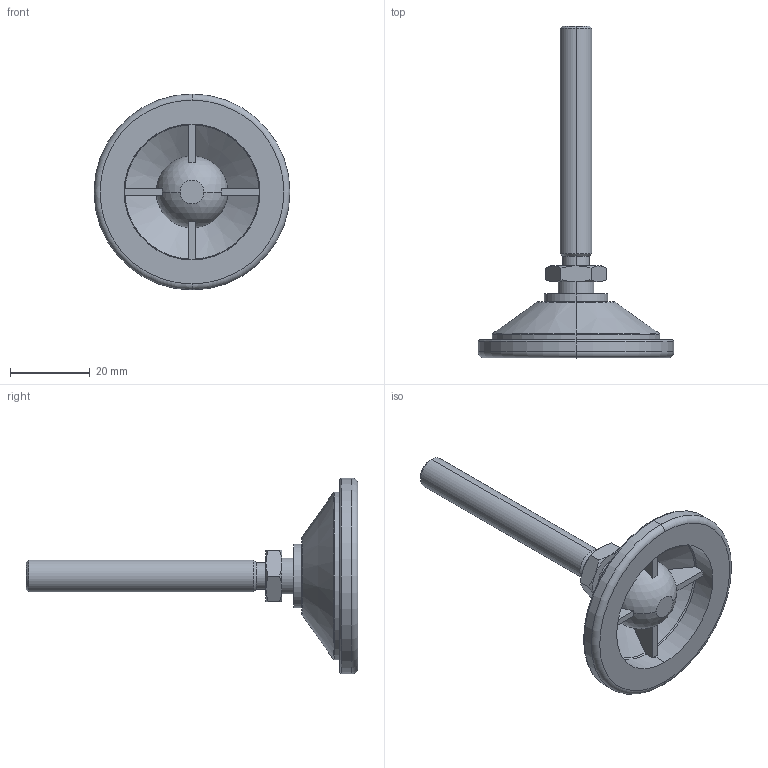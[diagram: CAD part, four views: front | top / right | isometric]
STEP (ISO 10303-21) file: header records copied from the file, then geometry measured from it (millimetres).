
FILE_DESCRIPTION (( 'STEP AP203' ), '1' );
FILE_NAME ('3472.W085.step', '2009-10-21T16:58:26', ( 'Wixroyd' ), ( 'Wixroyd' ), 'SwSTEP 2.0', 'SolidWorks 2009', '' );
FILE_SCHEMA (( 'CONFIG_CONTROL_DESIGN' ));
Length unit declared in the file: millimetre
Products named in the file (3): Part1_3472W085; Part2_3472W085; 3472.W085
Assembly tree (2 placements, depth 2):
  3472.W085
    Part1_3472W085
    Part2_3472W085
Bounding box: 49 x 83 x 49 mm (x, y, z)
Volume: 14463.6 mm3; surface area: 9497 mm2
Topology: 2 solids, 2 shells, 95 faces, 231 edges, 145 vertices
Faces by surface type: plane 39, cone 22, cylinder 16, torus 12, sphere 6
Entity records: 3189 total; most frequent: CARTESIAN_POINT 664, DIRECTION 514, ORIENTED_EDGE 446, AXIS2_PLACEMENT_3D 231, EDGE_CURVE 223, VERTEX_POINT 141, CIRCLE 131, EDGE_LOOP 104
